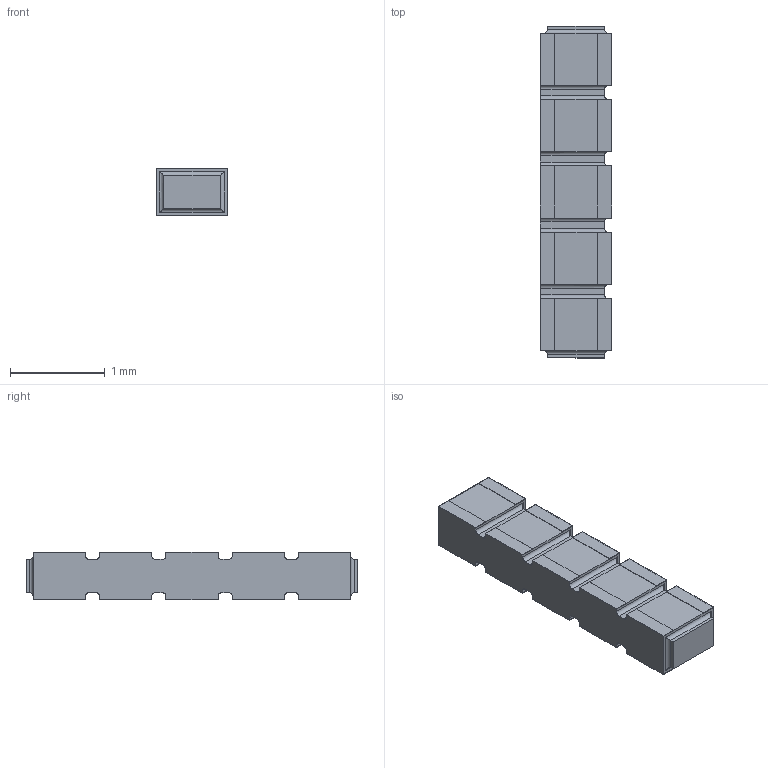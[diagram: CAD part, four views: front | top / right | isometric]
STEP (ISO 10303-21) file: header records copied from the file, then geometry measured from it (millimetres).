
FILE_DESCRIPTION(/* description */ (''),/* implementation_level */ '2;1');
FILE_NAME(/* name */ 'S:\DOCUMENT\AUTOCAD\3D_Modèles\10_3D-pour-VISHAY-COM\PRA\PRA073\PRA073-C2_à_C8\10_IGES\PRA073C5_B-or-N-or-G.stp',/* time_stamp */ '2017-12-21T10:44:14+01:00',/* author */ ('dparmentier'),/* organization */ ('unknown'),/* preprocessor_version */ 'ST-DEVELOPER v17',/* originating_system */ 'Autodesk Inventor 2018',/* authorisation */ '');
FILE_SCHEMA (('AUTOMOTIVE_DESIGN { 1 0 10303 214 3 1 1 }'));
Length unit declared in the file: millimetre
Products named in the file (1): PRA073C5_B-or-N-or-G
Bounding box: 0.75 x 3.5 x 0.5 mm (x, y, z)
Volume: 1.2 mm3; surface area: 19 mm2
Topology: 7 solids, 7 shells, 204 faces, 540 edges, 352 vertices
Faces by surface type: plane 156, cylinder 48
Entity records: 6271 total; most frequent: CARTESIAN_POINT 1097, ORIENTED_EDGE 1080, DIRECTION 1022, EDGE_CURVE 540, LINE 468, VECTOR 468, VERTEX_POINT 352, AXIS2_PLACEMENT_3D 277
